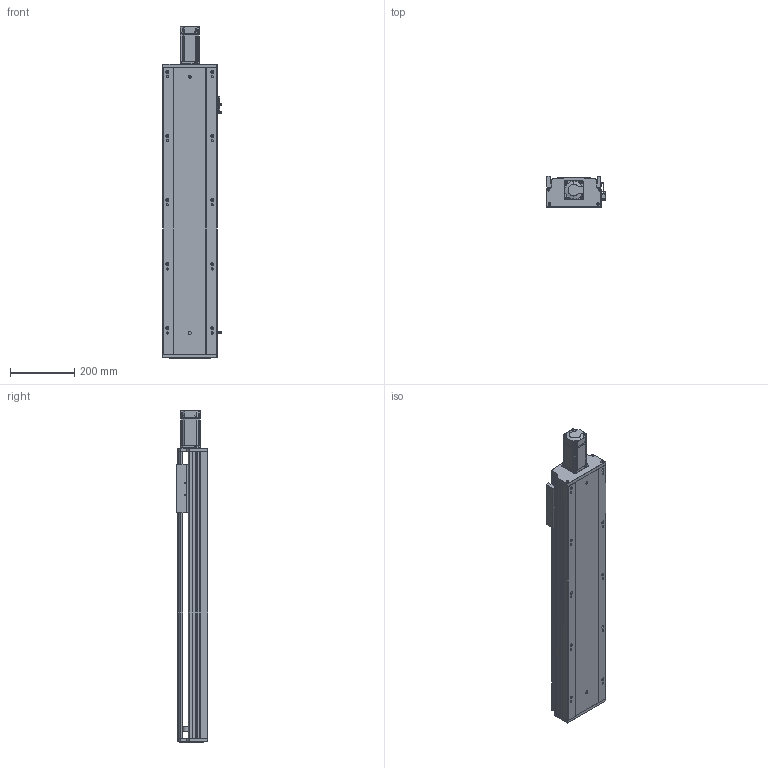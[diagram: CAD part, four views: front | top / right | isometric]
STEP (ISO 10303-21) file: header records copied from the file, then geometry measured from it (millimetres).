
FILE_DESCRIPTION (( 'STEP AP203' ), '1' );
FILE_NAME ('RY170Q-L2020-400-MK.SLDASM_0650.step', '2021-05-31T02:02:38', ( '盈信电脑' ), ( '东莞市道滘镇水果街19号' ), 'SwSTEP 2.0', 'SolidWorks 2016', '' );
FILE_SCHEMA (( 'CONFIG_CONTROL_DESIGN' ));
Length unit declared in the file: millimetre
Products named in the file (12): RY170Q-L2020-400-MK.SLDASM_0650; RY170Q臏賑輸20佪裝蹟譫(FK15); 15; 滅袉蝶18-10; RY170Q-400倰第菁釱-MK_0650; RY170Q-400倰第裔啣-MK_0650; 侂狟400W侜督萇儂; RY170ヶ醱裔啣; 滅袉蝶18-15; RY170外置感应片(200共用）; RY170綴裔啣; 覜茼ん672
Assembly tree (14 placements, depth 3):
  RY170Q-L2020-400-MK.SLDASM_0650
    RY170Q-400倰第菁釱-MK_0650
    RY170Q-400倰第裔啣-MK_0650
    RY170Q臏賑輸20佪裝蹟譫(FK15)
    侂狟400W侜督萇儂
      15
    RY170綴裔啣
    覜茼ん672  x3
    RY170外置感应片(200共用）
    RY170ヶ醱裔啣
    滅袉蝶18-15  x2
    滅袉蝶18-10
Bounding box: 183.7 x 97 x 1036.5 mm (x, y, z)
Volume: 4753966.8 mm3; surface area: 1526655.2 mm2
Topology: 13 solids, 13 shells, 2146 faces, 6079 edges, 3927 vertices
Faces by surface type: plane 1185, cylinder 763, cone 169, bspline 29
Entity records: 66930 total; most frequent: CARTESIAN_POINT 14501, ORIENTED_EDGE 10922, DIRECTION 10404, EDGE_CURVE 5461, VERTEX_POINT 3595, LINE 3572, VECTOR 3572, AXIS2_PLACEMENT_3D 3416
